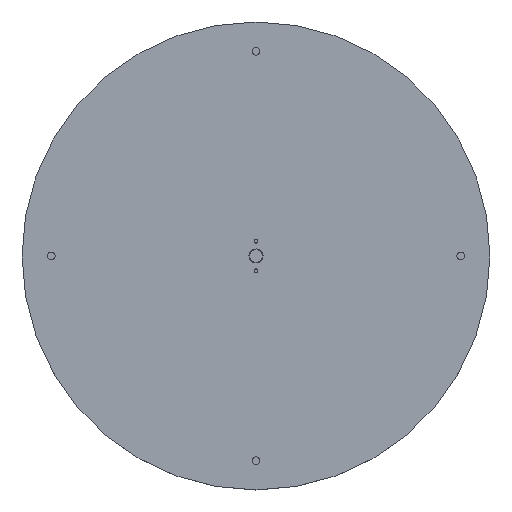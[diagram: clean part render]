
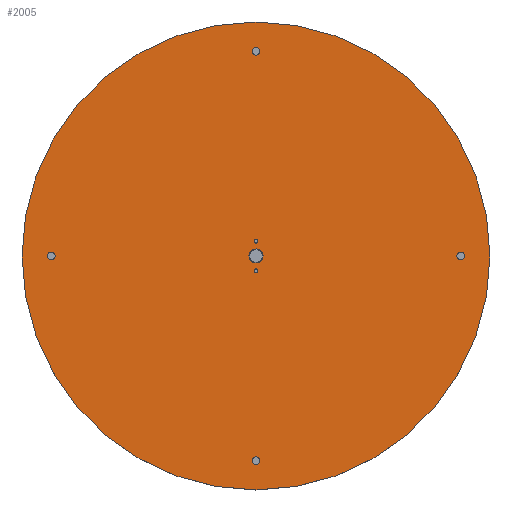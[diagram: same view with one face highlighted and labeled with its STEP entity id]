
A CAD part, top view. The second image highlights one B-rep face of the part: STEP entity #2005.
In plain terms, the highlighted planar face has unit normal (0, 0, 1).
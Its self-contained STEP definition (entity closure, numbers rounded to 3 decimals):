
#230=PLANE('',#2251);
#398=FACE_BOUND('',#745,.T.);
#399=FACE_BOUND('',#746,.T.);
#400=FACE_BOUND('',#747,.T.);
#401=FACE_BOUND('',#748,.T.);
#402=FACE_BOUND('',#749,.T.);
#403=FACE_BOUND('',#750,.T.);
#404=FACE_BOUND('',#751,.T.);
#505=FACE_OUTER_BOUND('',#744,.T.);
#744=EDGE_LOOP('',(#1601));
#745=EDGE_LOOP('',(#1602));
#746=EDGE_LOOP('',(#1603));
#747=EDGE_LOOP('',(#1604));
#748=EDGE_LOOP('',(#1605));
#749=EDGE_LOOP('',(#1606));
#750=EDGE_LOOP('',(#1607));
#751=EDGE_LOOP('',(#1608));
#922=CIRCLE('',#2232,6.);
#924=CIRCLE('',#2235,3.324);
#926=CIRCLE('',#2238,3.324);
#928=CIRCLE('',#2241,3.324);
#930=CIRCLE('',#2244,3.324);
#932=CIRCLE('',#2247,1.621);
#934=CIRCLE('',#2250,1.621);
#935=CIRCLE('',#2252,200.);
#1069=VERTEX_POINT('',#3297);
#1071=VERTEX_POINT('',#3302);
#1073=VERTEX_POINT('',#3307);
#1075=VERTEX_POINT('',#3312);
#1077=VERTEX_POINT('',#3317);
#1079=VERTEX_POINT('',#3322);
#1081=VERTEX_POINT('',#3327);
#1082=VERTEX_POINT('',#3330);
#1266=EDGE_CURVE('',#1069,#1069,#922,.T.);
#1268=EDGE_CURVE('',#1071,#1071,#924,.T.);
#1270=EDGE_CURVE('',#1073,#1073,#926,.T.);
#1272=EDGE_CURVE('',#1075,#1075,#928,.T.);
#1274=EDGE_CURVE('',#1077,#1077,#930,.T.);
#1276=EDGE_CURVE('',#1079,#1079,#932,.T.);
#1278=EDGE_CURVE('',#1081,#1081,#934,.T.);
#1279=EDGE_CURVE('',#1082,#1082,#935,.T.);
#1601=ORIENTED_EDGE('',*,*,#1279,.T.);
#1602=ORIENTED_EDGE('',*,*,#1266,.T.);
#1603=ORIENTED_EDGE('',*,*,#1268,.T.);
#1604=ORIENTED_EDGE('',*,*,#1270,.T.);
#1605=ORIENTED_EDGE('',*,*,#1272,.T.);
#1606=ORIENTED_EDGE('',*,*,#1274,.T.);
#1607=ORIENTED_EDGE('',*,*,#1276,.T.);
#1608=ORIENTED_EDGE('',*,*,#1278,.T.);
#2005=ADVANCED_FACE('',(#505,#398,#399,#400,#401,#402,#403,#404),#230,.T.);
#2232=AXIS2_PLACEMENT_3D('',#3298,#2693,#2694);
#2235=AXIS2_PLACEMENT_3D('',#3303,#2699,#2700);
#2238=AXIS2_PLACEMENT_3D('',#3308,#2705,#2706);
#2241=AXIS2_PLACEMENT_3D('',#3313,#2711,#2712);
#2244=AXIS2_PLACEMENT_3D('',#3318,#2717,#2718);
#2247=AXIS2_PLACEMENT_3D('',#3323,#2723,#2724);
#2250=AXIS2_PLACEMENT_3D('',#3328,#2729,#2730);
#2251=AXIS2_PLACEMENT_3D('',#3329,#2731,#2732);
#2252=AXIS2_PLACEMENT_3D('',#3331,#2733,#2734);
#2693=DIRECTION('center_axis',(0.,0.,-1.));
#2694=DIRECTION('ref_axis',(1.,0.,0.));
#2699=DIRECTION('center_axis',(0.,0.,-1.));
#2700=DIRECTION('ref_axis',(1.,0.,0.));
#2705=DIRECTION('center_axis',(0.,0.,-1.));
#2706=DIRECTION('ref_axis',(1.,0.,0.));
#2711=DIRECTION('center_axis',(0.,0.,-1.));
#2712=DIRECTION('ref_axis',(1.,0.,0.));
#2717=DIRECTION('center_axis',(0.,0.,-1.));
#2718=DIRECTION('ref_axis',(1.,0.,0.));
#2723=DIRECTION('center_axis',(0.,0.,-1.));
#2724=DIRECTION('ref_axis',(1.,0.,0.));
#2729=DIRECTION('center_axis',(0.,0.,-1.));
#2730=DIRECTION('ref_axis',(1.,0.,0.));
#2731=DIRECTION('center_axis',(0.,0.,1.));
#2732=DIRECTION('ref_axis',(1.,0.,0.));
#2733=DIRECTION('center_axis',(0.,0.,1.));
#2734=DIRECTION('ref_axis',(0.,-1.,0.));
#3297=CARTESIAN_POINT('',(6.,0.,23.2));
#3298=CARTESIAN_POINT('Origin',(0.,0.,23.2));
#3302=CARTESIAN_POINT('',(3.324,-175.,23.2));
#3303=CARTESIAN_POINT('Origin',(0.,-175.,23.2));
#3307=CARTESIAN_POINT('',(3.324,175.,23.2));
#3308=CARTESIAN_POINT('Origin',(0.,175.,23.2));
#3312=CARTESIAN_POINT('',(-171.677,0.,23.2));
#3313=CARTESIAN_POINT('Origin',(-175.,0.,23.2));
#3317=CARTESIAN_POINT('',(178.324,0.,23.2));
#3318=CARTESIAN_POINT('Origin',(175.,0.,23.2));
#3322=CARTESIAN_POINT('',(-10.879,0.,23.2));
#3323=CARTESIAN_POINT('Origin',(-12.5,0.,23.2));
#3327=CARTESIAN_POINT('',(14.121,0.,23.2));
#3328=CARTESIAN_POINT('Origin',(12.5,0.,23.2));
#3329=CARTESIAN_POINT('Origin',(0.,-100.,23.2));
#3330=CARTESIAN_POINT('',(0.,-200.,23.2));
#3331=CARTESIAN_POINT('Origin',(0.,0.,23.2));
